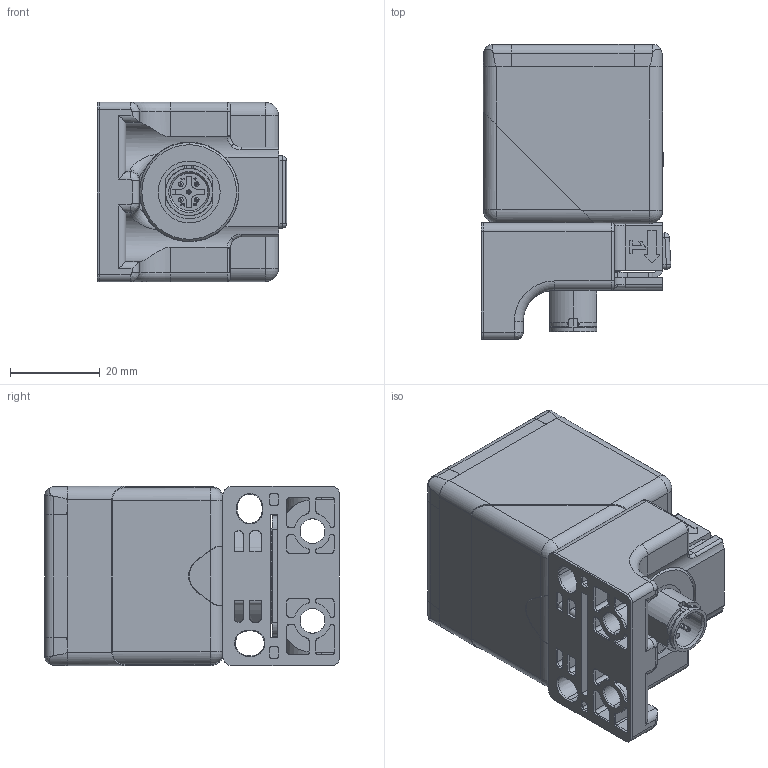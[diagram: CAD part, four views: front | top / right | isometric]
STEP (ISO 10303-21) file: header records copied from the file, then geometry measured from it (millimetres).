
FILE_DESCRIPTION (( 'STEP AP203' ), '1' );
FILE_NAME ('vxv-130.STEP', '2022-03-09T15:27:33', ( '' ), ( '' ), 'SwSTEP 2.0', 'SolidWorks 2021', '' );
FILE_SCHEMA (( 'CONFIG_CONTROL_DESIGN' ));
Length unit declared in the file: millimetre
Products named in the file (4): 200 kHz USW+Elektronikgehaeuse; Steckergehaeuse; Montagehalterung; vxv-130
Assembly tree (3 placements, depth 2):
  vxv-130
    Montagehalterung
    Steckergehaeuse
    200 kHz USW+Elektronikgehaeuse
Bounding box: 42.26 x 65.78 x 40 mm (x, y, z)
Volume: 82490.7 mm3; surface area: 25903 mm2
Topology: 3 solids, 3 shells, 1004 faces, 2575 edges, 1618 vertices
Faces by surface type: plane 471, cylinder 295, cone 135, bspline 69, torus 22, sphere 12
Entity records: 37917 total; most frequent: CARTESIAN_POINT 13468, ORIENTED_EDGE 5142, DIRECTION 4879, EDGE_CURVE 2571, AXIS2_PLACEMENT_3D 1662, VERTEX_POINT 1618, LINE 1555, VECTOR 1555
